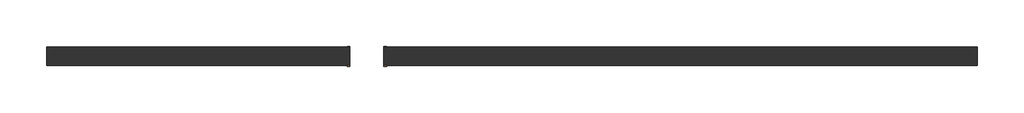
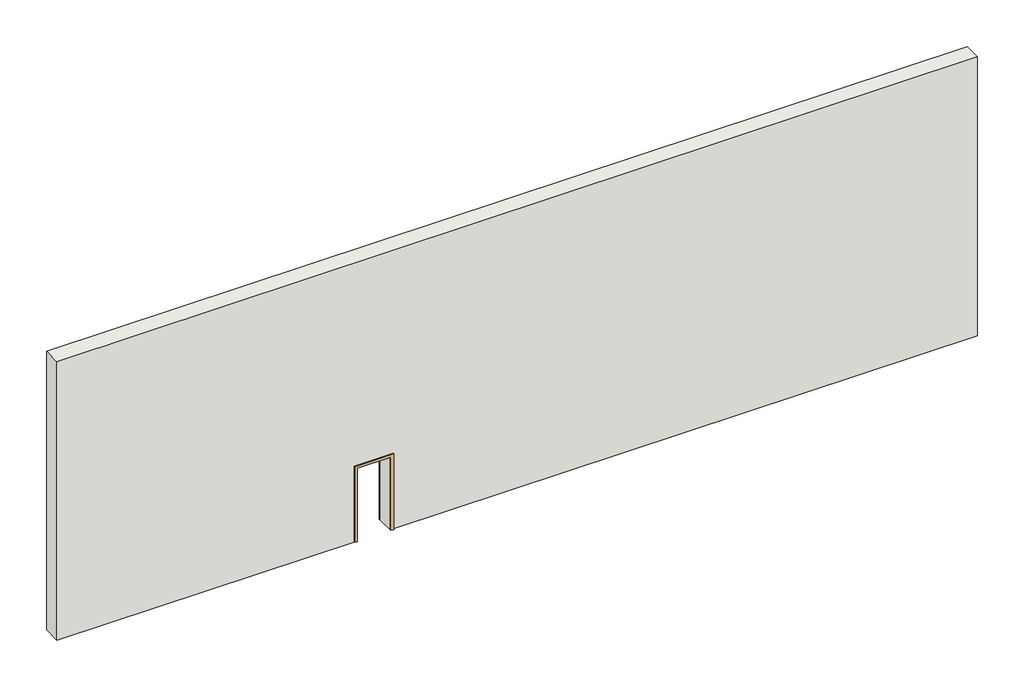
# One storey: 1 door, 1 wall.
"""IFC4 building model written with IfcOpenShell, lengths in millimetres."""

from ifc_helpers import new_model, si_unit, frame, origin, place, context, project, spatial, polyline, outline, extrude, transform, mapped, element, save
from components import door_6f64ebb6

model = new_model("IFC4")

# Units and contexts
model_context = context("Model", 3, world=origin())
ifc_project = project(units=[si_unit("LENGTHUNIT", "METRE", prefix="MILLI")], contexts=[model_context])

# Site, building, storey
site = spatial("IfcSite", under=ifc_project)
building = spatial("IfcBuilding", under=site)
storey = spatial("IfcBuildingStorey", under=building, Name="Уровень 1", Elevation=0.0)

# Door
placement = place(None, origin())
door_shape = door_6f64ebb6(model_context)
element("IfcDoor", 1, ObjectType="2_19_Дверь_Спецификация : 2_18_Дверь_Внутрь и Наружу", at=placement, inside=storey, context=model_context, shape_type="MappedRepresentation", body=[
    mapped(door_shape, transform((-10096.6605497, 10820.7724311, 0.0), x_axis=(-1.0, 0.0, 0.0), y_axis=(0.0, -1.0, 0.0), z_axis=(0.0, 0.0, 1.0))),
])

# Wall
element("IfcWall", 2, ObjectType="Наружный - Кирпич на бетонном блоке", at=placement, inside=storey, context=model_context, shape_type="SweptSolid", body=[
    extrude(outline(polyline([(0.0, 6303.3394503), (8000.0, 6303.3394503), (8000.0, -18696.6605497), (0.0, -18696.6605497), (0.0, -10551.6605497), (2100.0, -10551.6605497), (2100.0, -9641.6605497), (0.0, -9641.6605497), (0.0, 6303.3394503)])), frame((0.0, 10575.7724311, 0.0), z_axis=(0.0, 1.0, 0.0), x_axis=(0.0, 0.0, 1.0)), (0.0, 0.0, 1.0), 490.0),
])

save(model, "model.ifc")
